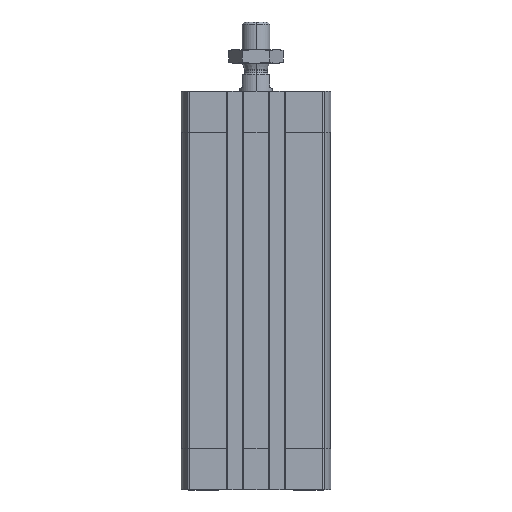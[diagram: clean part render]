
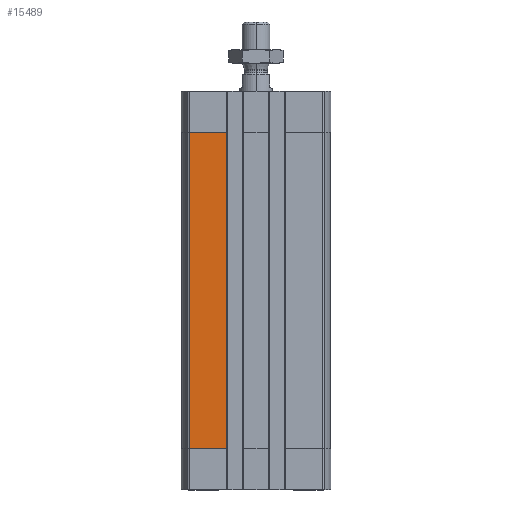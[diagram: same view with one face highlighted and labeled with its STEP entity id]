
A CAD part, left-side view. The second image highlights one B-rep face of the part: STEP entity #15489.
In plain terms, the highlighted planar face has unit normal (-1, 0, 0).
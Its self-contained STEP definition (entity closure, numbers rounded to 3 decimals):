
#717 = EDGE_CURVE ( 'NONE', #8930, #2811, #15453, .T. ) ;
#1041 = EDGE_CURVE ( 'NONE', #16284, #8930, #1101, .T. ) ;
#1101 = LINE ( 'NONE', #12593, #1481 ) ;
#1481 = VECTOR ( 'NONE', #11822, 1000. ) ;
#2811 = VERTEX_POINT ( 'NONE', #15644 ) ;
#2939 = DIRECTION ( 'NONE',  ( 0., 0., 1. ) ) ;
#3036 = DIRECTION ( 'NONE',  ( -1., 0., 0. ) ) ;
#4656 = DIRECTION ( 'NONE',  ( 0., 0., -1. ) ) ;
#5086 = CARTESIAN_POINT ( 'NONE',  ( -27., 24.093, -130. ) ) ;
#5430 = VECTOR ( 'NONE', #14433, 1000. ) ;
#5496 = CARTESIAN_POINT ( 'NONE',  ( -27., 24.093, -130. ) ) ;
#6114 = EDGE_LOOP ( 'NONE', ( #13960, #12155, #8832, #8504 ) ) ;
#6336 = CARTESIAN_POINT ( 'NONE',  ( -27., 10.7, -130. ) ) ;
#6392 = VECTOR ( 'NONE', #2939, 1000. ) ;
#7172 = LINE ( 'NONE', #14205, #6392 ) ;
#7754 = VERTEX_POINT ( 'NONE', #6336 ) ;
#8504 = ORIENTED_EDGE ( 'NONE', *, *, #717, .T. ) ;
#8751 = LINE ( 'NONE', #15695, #5430 ) ;
#8832 = ORIENTED_EDGE ( 'NONE', *, *, #1041, .T. ) ;
#8930 = VERTEX_POINT ( 'NONE', #10803 ) ;
#9253 = PLANE ( 'NONE',  #10817 ) ;
#9384 = EDGE_CURVE ( 'NONE', #2811, #7754, #8751, .T. ) ;
#10803 = CARTESIAN_POINT ( 'NONE',  ( -27., 24.093, -15. ) ) ;
#10817 = AXIS2_PLACEMENT_3D ( 'NONE', #5496, #3036, #11776 ) ;
#10982 = CARTESIAN_POINT ( 'NONE',  ( -27., 10.7, -15. ) ) ;
#11641 = VECTOR ( 'NONE', #4656, 1000. ) ;
#11776 = DIRECTION ( 'NONE',  ( 0., 0., 1. ) ) ;
#11822 = DIRECTION ( 'NONE',  ( 0., 1., 0. ) ) ;
#12155 = ORIENTED_EDGE ( 'NONE', *, *, #15052, .T. ) ;
#12593 = CARTESIAN_POINT ( 'NONE',  ( -27., 0., -15. ) ) ;
#13960 = ORIENTED_EDGE ( 'NONE', *, *, #9384, .T. ) ;
#14205 = CARTESIAN_POINT ( 'NONE',  ( -27., 10.7, -130. ) ) ;
#14433 = DIRECTION ( 'NONE',  ( 0., -1., 0. ) ) ;
#14686 = FACE_OUTER_BOUND ( 'NONE', #6114, .T. ) ;
#15052 = EDGE_CURVE ( 'NONE', #7754, #16284, #7172, .T. ) ;
#15453 = LINE ( 'NONE', #5086, #11641 ) ;
#15489 = ADVANCED_FACE ( 'NONE', ( #14686 ), #9253, .T. ) ;
#15644 = CARTESIAN_POINT ( 'NONE',  ( -27., 24.093, -130. ) ) ;
#15695 = CARTESIAN_POINT ( 'NONE',  ( -27., 24.093, -130. ) ) ;
#16284 = VERTEX_POINT ( 'NONE', #10982 ) ;
